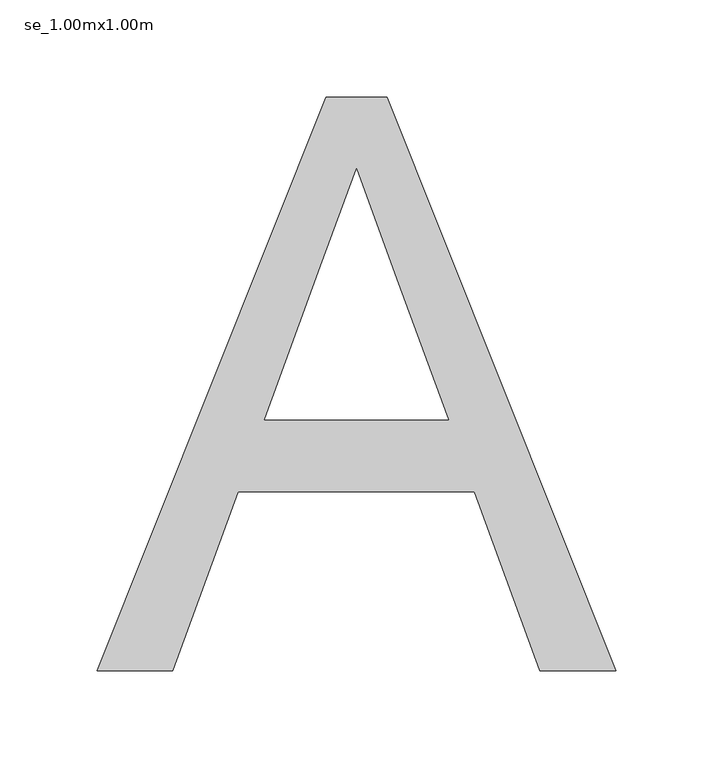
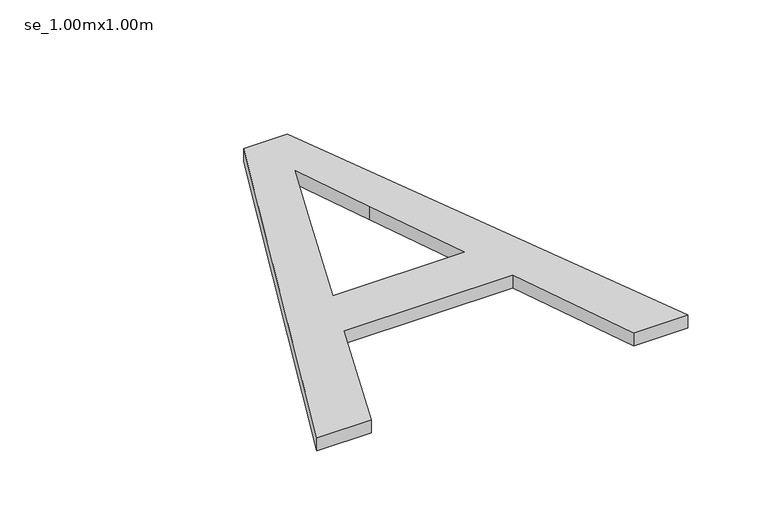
"""IFC4 building model written with IfcOpenShell, lengths in millimetres: proxy geometry, MILLS_DYN_TOEC_TOURECHAF : se_1.00mx1.00m."""

import ifcopenshell
import ifcopenshell.guid

model = None  # the IFC model being written
_history = None  # IfcOwnerHistory: only IFC2X3 demands one
_inside = {}  # id of a spatial element -> (the spatial element, [elements in it])
_under = {}  # id of a project, library or spatial element -> (it, [spatial elements below it])
_declared = {}  # id of a project -> (the project, [libraries it declares])
_typed = {}  # id of a type object -> (the type object, [elements of that type])
_made_of = {}  # id of a material, layer set ... -> (it, [elements and type objects made of it])


def new_model(schema):
    """Start an empty IFC model of exactly this schema.

    Asked for "IFC4X3", IfcOpenShell would pick the latest addendum, in which some entities
    have other attributes; the version numbers below select the first issue.
    IFC2X3 requires an IfcOwnerHistory on every rooted entity: one is made here for all.
    """
    global model, _history
    if schema == "IFC4X3":
        model = ifcopenshell.file(schema_version=(4, 3, 0, 0))
    else:
        model = ifcopenshell.file(schema=schema)
    _inside.clear()
    _under.clear()
    _declared.clear()
    _typed.clear()
    _made_of.clear()
    _history = None
    if model.schema == "IFC2X3":
        org = make("IfcOrganization", Name="unknown")
        user = make(
            "IfcPersonAndOrganization",
            ThePerson=make("IfcPerson", FamilyName="unknown"),
            TheOrganization=org,
        )
        app = make(
            "IfcApplication",
            ApplicationDeveloper=org,
            Version="unknown",
            ApplicationFullName="unknown",
            ApplicationIdentifier="unknown",
        )
        _history = make(
            "IfcOwnerHistory",
            OwningUser=user,
            OwningApplication=app,
            ChangeAction="ADDED",
            CreationDate=0,
        )
    return model


def make(cls, **values):
    """One entity of the class cls with the attributes given. An attribute that is None is left unset."""
    return model.create_entity(
        cls, **{name: value for name, value in values.items() if value is not None}
    )


def rooted(cls, **values):
    """An entity with a GlobalId (a new one), such as an element, a storey or a relation."""
    return make(cls, GlobalId=ifcopenshell.guid.new(), OwnerHistory=_history, **values)


def si_unit(unit_type, name, prefix=None):
    """IfcSIUnit, for example si_unit("LENGTHUNIT", "METRE", prefix="MILLI")."""
    return make("IfcSIUnit", UnitType=unit_type, Prefix=prefix, Name=name)


def assignment(units):
    """IfcUnitAssignment: the units of a project."""
    return None if units is None else make("IfcUnitAssignment", Units=units)


def point(xyz):
    """IfcCartesianPoint."""
    return None if xyz is None else make("IfcCartesianPoint", Coordinates=xyz)


def direction(xyz):
    """IfcDirection."""
    return None if xyz is None else make("IfcDirection", DirectionRatios=xyz)


def frame(location, z_axis=None, x_axis=None):
    """IfcAxis2Placement3D, a coordinate frame: its origin and axes. An axis left out is left unset."""
    return make(
        "IfcAxis2Placement3D",
        Location=point(location),
        Axis=direction(z_axis),
        RefDirection=direction(x_axis),
    )


def origin():
    """The frame at (0, 0, 0) with its axes left unset."""
    return frame((0.0, 0.0, 0.0))


def origin_with_axes():
    """The frame at (0, 0, 0) with the z axis (0, 0, 1) and the x axis (1, 0, 0) written out."""
    return frame((0.0, 0.0, 0.0), z_axis=(0.0, 0.0, 1.0), x_axis=(1.0, 0.0, 0.0))


def place(relative_to, where):
    """IfcLocalPlacement: puts the frame where relative to a parent placement (None: the world)."""
    return make(
        "IfcLocalPlacement", PlacementRelTo=relative_to, RelativePlacement=where
    )


def context(
    kind, dimensions, precision=None, world=None, true_north=None, identifier=None
):
    """IfcGeometricRepresentationContext, for example the 3D "Model" context."""
    return make(
        "IfcGeometricRepresentationContext",
        ContextIdentifier=identifier,
        ContextType=kind,
        CoordinateSpaceDimension=dimensions,
        Precision=precision,
        WorldCoordinateSystem=world,
        TrueNorth=true_north,
    )


def project(units=None, contexts=None):
    """IfcProject with its units and contexts."""
    return rooted(
        "IfcProject",
        Name="project",
        RepresentationContexts=contexts,
        UnitsInContext=assignment(units),
    )


def spatial(cls, under=None, at=None, **own):
    """A site, building, storey or space (cls), placed at a placement, below another one or the project."""
    s = rooted(cls, ObjectPlacement=at, **own)
    if under is not None:
        _under.setdefault(under.id(), (under, []))[1].append(s)
    return s


def polyline(points):
    """IfcPolyline through the points."""
    return make("IfcPolyline", Points=[point(p) for p in points])


def outline(outer, holes=None, kind="AREA"):
    """IfcArbitraryClosedProfileDef: a profile drawn as a closed curve; with holes, ...WithVoids."""
    if holes is None:
        return make("IfcArbitraryClosedProfileDef", ProfileType=kind, OuterCurve=outer)
    return make(
        "IfcArbitraryProfileDefWithVoids",
        ProfileType=kind,
        OuterCurve=outer,
        InnerCurves=holes,
    )


def extrude(swept, where, along, depth):
    """IfcExtrudedAreaSolid: the profile swept, set in the frame where, extruded along a direction by depth."""
    return make(
        "IfcExtrudedAreaSolid",
        SweptArea=swept,
        Position=where,
        ExtrudedDirection=direction(along),
        Depth=depth,
    )


def shape(context_of_items, identifier, shape_type, items):
    """IfcShapeRepresentation: the items that make up one representation, for example the "Body"."""
    return make(
        "IfcShapeRepresentation",
        ContextOfItems=context_of_items,
        RepresentationIdentifier=identifier,
        RepresentationType=shape_type,
        Items=items,
    )


def source(mapping_origin, context_of_items, identifier, shape_type, items):
    """IfcRepresentationMap: a shape defined once, which mapped items show again and again."""
    return make(
        "IfcRepresentationMap",
        MappingOrigin=mapping_origin,
        MappedRepresentation=shape(context_of_items, identifier, shape_type, items),
    )


def transform(
    local_origin,
    x_axis=None,
    y_axis=None,
    z_axis=None,
    scale=None,
    scale2=None,
    scale3=None,
    uniform=True,
):
    """IfcCartesianTransformationOperator3D, or its non-uniform kind. x_axis, y_axis, z_axis: its Axis1, 2, 3."""
    if uniform:
        return make(
            "IfcCartesianTransformationOperator3D",
            Axis1=direction(x_axis),
            Axis2=direction(y_axis),
            LocalOrigin=point(local_origin),
            Scale=scale,
            Axis3=direction(z_axis),
        )
    return make(
        "IfcCartesianTransformationOperator3DnonUniform",
        Axis1=direction(x_axis),
        Axis2=direction(y_axis),
        LocalOrigin=point(local_origin),
        Scale=scale,
        Axis3=direction(z_axis),
        Scale2=scale2,
        Scale3=scale3,
    )


def mapped(mapping_source, mapping_target):
    """IfcMappedItem: shows the shape of a source again, moved by a transform."""
    return make(
        "IfcMappedItem", MappingSource=mapping_source, MappingTarget=mapping_target
    )


def made_of(thing, what):
    """Note that an element or type object is made of a material, layer set ...; save() writes the relation."""
    if what is not None:
        _made_of.setdefault(what.id(), (what, []))[1].append(thing)
    return thing


def element(
    cls,
    number,
    at=None,
    inside=None,
    cuts=None,
    type_object=None,
    material=None,
    context=None,
    identifier="Body",
    shape_type=None,
    held_by="IfcProductDefinitionShape",
    body=None,
    shapes=None,
    **own,
):
    """One element of the class cls, such as IfcWall. Its Tag is "e" and its number.

    at: its placement. inside: the storey or other place that contains it. cuts: it is an
    opening in that element (IfcRelVoidsElement). A single representation is given by context,
    identifier, shape_type and body (its items); several are given by shapes. held_by: the class
    of the entity that holds the representations. save() writes the other relations.
    """
    e = rooted(cls, Tag="e%d" % number, ObjectPlacement=at, **own)
    if body is not None:
        shapes = [shape(context, identifier, shape_type, body)]
    if shapes is not None:
        e.Representation = make(held_by, Representations=shapes)
    if inside is not None:
        _inside.setdefault(inside.id(), (inside, []))[1].append(e)
    if cuts is not None:
        rooted(
            "IfcRelVoidsElement", RelatingBuildingElement=cuts, RelatedOpeningElement=e
        )
    if type_object is not None:
        _typed.setdefault(type_object.id(), (type_object, []))[1].append(e)
    return made_of(e, material)


def aggregate(whole, parts):
    """IfcRelAggregates: a whole, such as a stair, and the parts it consists of."""
    return rooted("IfcRelAggregates", RelatingObject=whole, RelatedObjects=parts)


def save(model, path):
    """Write the relations noted so far, then the file.

    IfcRelAggregates (storeys below a building ...), IfcRelContainedInSpatialStructure (elements
    in a storey), IfcRelDefinesByType, IfcRelAssociatesMaterial and IfcRelDeclares: one each for
    every whole, place, type object, material and project.
    """
    for whole, parts in _under.values():
        aggregate(whole, parts)
    for where, things in _inside.values():
        rooted(
            "IfcRelContainedInSpatialStructure",
            RelatedElements=things,
            RelatingStructure=where,
        )
    for kind, things in _typed.values():
        rooted("IfcRelDefinesByType", RelatedObjects=things, RelatingType=kind)
    for what, things in _made_of.values():
        rooted("IfcRelAssociatesMaterial", RelatedObjects=things, RelatingMaterial=what)
    for by, libraries in _declared.values():
        rooted("IfcRelDeclares", RelatingContext=by, RelatedDefinitions=libraries)
    model.write(path)


def se_1_00mx1_00m_65cb5320(model_context):
    return source(origin(), model_context, "Body", "SweptSolid", [
        extrude(outline(polyline([(-55.8158421, -488.4096707), (62.0928117, -193.0250553), (93.5351194, -193.0250553), (211.4437732, -488.4096707), (172.4293502, -488.4096707), (138.6072348, -396.1019784), (16.9485809, -396.1019784), (-16.8014191, -488.4096707), (-55.8158421, -488.4096707)]), holes=[polyline([(30.5062732, -359.1789015), (125.1216579, -359.1789015), (98.5110809, -286.5587092), (77.8139655, -229.9481323), (59.4245425, -280.2125553), (30.5062732, -359.1789015)])]), origin_with_axes(), (0.0, 0.0, 1.0), 10.0),
    ])


if __name__ == "__main__":
    model = new_model("IFC4")
    model_context = context("Model", 3, world=origin())
    ifc_project = project(units=[si_unit("LENGTHUNIT", "METRE", prefix="MILLI")], contexts=[model_context])
    site = spatial("IfcSite", under=ifc_project)
    building = spatial("IfcBuilding", under=site)
    placement = place(None, origin())
    se_1_00mx1_00m_shape = se_1_00mx1_00m_65cb5320(model_context)
    element("IfcBuildingElementProxy", 1, Name="MILLS_DYN_TOEC_TOURECHAF : se_1.00mx1.00m", ObjectType="MILLS_DYN_TOEC_TOURECHAF : se_1.00mx1.00m", at=placement, inside=building, context=model_context, shape_type="MappedRepresentation", body=[
        mapped(se_1_00mx1_00m_shape, transform((0.0, 0.0, 0.0), x_axis=(1.0, 0.0, 0.0), y_axis=(0.0, 1.0, 0.0), z_axis=(0.0, 0.0, 1.0))),
    ])
    save(model, "model.ifc")
